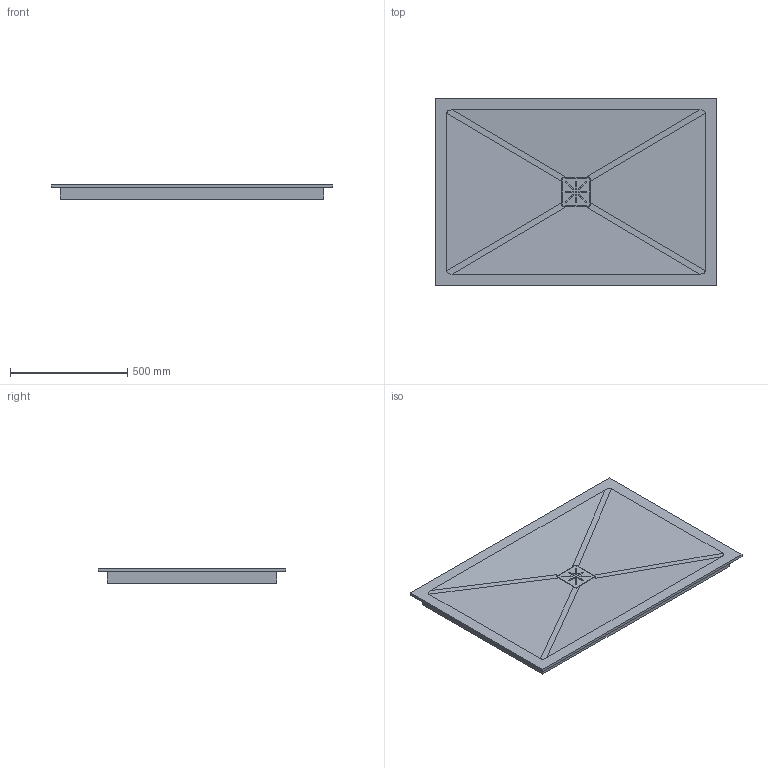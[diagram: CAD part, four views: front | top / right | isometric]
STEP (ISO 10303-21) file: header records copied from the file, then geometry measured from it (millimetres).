
FILE_DESCRIPTION (( 'STEP AP214' ), '1' );
FILE_NAME ('FOSTER 120x80.STEP', '2024-05-14T07:28:35', ( '' ), ( '' ), 'SwSTEP 2.0', 'SolidWorks 2021', '' );
FILE_SCHEMA (( 'AUTOMOTIVE_DESIGN' ));
Length unit declared in the file: millimetre
Products named in the file (3): None_2; FOSTER 120x80; None
Assembly tree (2 placements, depth 2):
  FOSTER 120x80
    None
    None_2
Bounding box: 1200 x 800 x 62 mm (x, y, z)
Volume: 13859449.9 mm3; surface area: 2539567.8 mm2
Topology: 3 solids, 4 shells, 118 faces, 322 edges, 206 vertices
Faces by surface type: plane 68, cylinder 43, bspline 7
Full cylindrical faces by diameter (mm): 8 x1, 52 x1
Entity records: 4386 total; most frequent: CARTESIAN_POINT 1270, ORIENTED_EDGE 620, DIRECTION 614, EDGE_CURVE 315, LINE 218, VECTOR 218, VERTEX_POINT 205, AXIS2_PLACEMENT_3D 198
